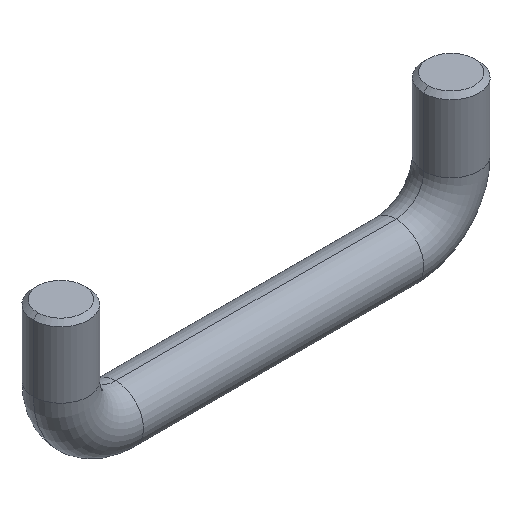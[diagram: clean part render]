
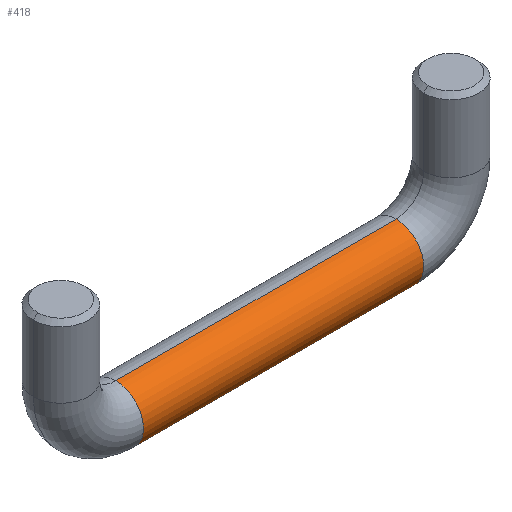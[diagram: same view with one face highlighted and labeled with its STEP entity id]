
A CAD part, isometric view. The second image highlights one B-rep face of the part: STEP entity #418.
In plain terms, the highlighted cylindrical face has radius 12.5 mm (diameter 25 mm), a partial arc.
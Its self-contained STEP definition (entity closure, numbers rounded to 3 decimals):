
#11 = DIRECTION ( 'NONE',  ( 0., 0., 1. ) ) ;
#15 = CARTESIAN_POINT ( 'NONE',  ( 301.286, 52.769, -542.635 ) ) ;
#20 = CARTESIAN_POINT ( 'NONE',  ( 301.286, 52.769, -555.135 ) ) ;
#21 = VERTEX_POINT ( 'NONE', #112 ) ;
#22 = DIRECTION ( 'NONE',  ( 1., 0., 0. ) ) ;
#27 = EDGE_LOOP ( 'NONE', ( #323, #320, #429, #243 ) ) ;
#44 = VERTEX_POINT ( 'NONE', #153 ) ;
#50 = DIRECTION ( 'NONE',  ( -1., 0., 0. ) ) ;
#56 = VERTEX_POINT ( 'NONE', #264 ) ;
#67 = CARTESIAN_POINT ( 'NONE',  ( 174.076, 52.769, -542.635 ) ) ;
#86 = DIRECTION ( 'NONE',  ( 0., 0., 1. ) ) ;
#112 = CARTESIAN_POINT ( 'NONE',  ( 174.076, 52.769, -530.135 ) ) ;
#134 = CYLINDRICAL_SURFACE ( 'NONE', #178, 12.5 ) ;
#153 = CARTESIAN_POINT ( 'NONE',  ( 301.286, 52.769, -530.135 ) ) ;
#164 = CARTESIAN_POINT ( 'NONE',  ( 174.076, 52.769, -530.135 ) ) ;
#168 = EDGE_CURVE ( 'NONE', #56, #281, #463, .T. ) ;
#173 = DIRECTION ( 'NONE',  ( 1., 0., 0. ) ) ;
#178 = AXIS2_PLACEMENT_3D ( 'NONE', #67, #474, #324 ) ;
#212 = EDGE_CURVE ( 'NONE', #56, #21, #446, .T. ) ;
#236 = DIRECTION ( 'NONE',  ( -1., 0., 0. ) ) ;
#239 = AXIS2_PLACEMENT_3D ( 'NONE', #276, #50, #11 ) ;
#243 = ORIENTED_EDGE ( 'NONE', *, *, #254, .T. ) ;
#254 = EDGE_CURVE ( 'NONE', #281, #44, #394, .T. ) ;
#255 = FACE_OUTER_BOUND ( 'NONE', #27, .T. ) ;
#257 = VECTOR ( 'NONE', #22, 1000. ) ;
#264 = CARTESIAN_POINT ( 'NONE',  ( 174.076, 52.769, -555.135 ) ) ;
#276 = CARTESIAN_POINT ( 'NONE',  ( 174.076, 52.769, -542.635 ) ) ;
#281 = VERTEX_POINT ( 'NONE', #20 ) ;
#289 = EDGE_CURVE ( 'NONE', #21, #44, #346, .T. ) ;
#297 = VECTOR ( 'NONE', #173, 1000. ) ;
#320 = ORIENTED_EDGE ( 'NONE', *, *, #212, .F. ) ;
#323 = ORIENTED_EDGE ( 'NONE', *, *, #289, .F. ) ;
#324 = DIRECTION ( 'NONE',  ( 0., 0., -1. ) ) ;
#346 = LINE ( 'NONE', #164, #257 ) ;
#380 = CARTESIAN_POINT ( 'NONE',  ( 174.076, 52.769, -555.135 ) ) ;
#394 = CIRCLE ( 'NONE', #476, 12.5 ) ;
#418 = ADVANCED_FACE ( 'NONE', ( #255 ), #134, .T. ) ;
#429 = ORIENTED_EDGE ( 'NONE', *, *, #168, .T. ) ;
#446 = CIRCLE ( 'NONE', #239, 12.5 ) ;
#463 = LINE ( 'NONE', #380, #297 ) ;
#474 = DIRECTION ( 'NONE',  ( 1., 0., 0. ) ) ;
#476 = AXIS2_PLACEMENT_3D ( 'NONE', #15, #236, #86 ) ;
